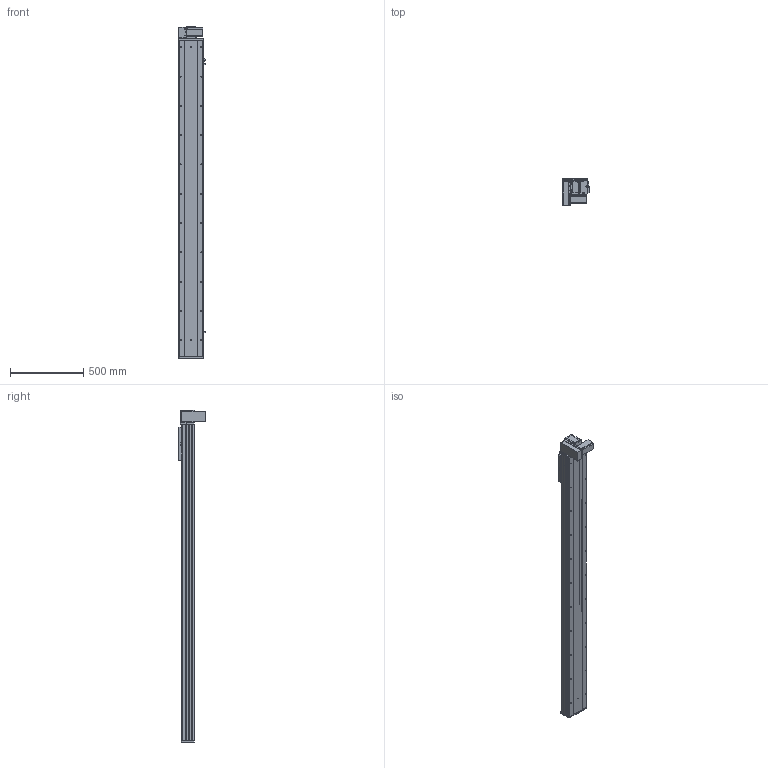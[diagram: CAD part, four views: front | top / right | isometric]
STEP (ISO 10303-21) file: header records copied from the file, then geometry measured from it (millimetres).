
FILE_DESCRIPTION (( 'STEP AP203' ), '1' );
FILE_NAME ('Y170CB-D105-S1850-BM-P400W.STEP', '2020-02-20T07:12:43', ( '微软用户' ), ( '微软中国' ), 'SwSTEP 2.0', 'SolidWorks 2017', '' );
FILE_SCHEMA (( 'CONFIG_CONTROL_DESIGN' ));
Length unit declared in the file: millimetre
Products named in the file (18): 17B-耜蚾蟀諉啣----; 70C--詩湍揤踡え-; 00B-俋欶BM--163; 70CB--耜裔; 70B喘謫眊----; 70C-雄赽釱-奻-; B-源倛裔啣; Y170CB-D105-S1850-BM-P400W; 0C--雄赽釱俋欶-170; 0B-萇儂楊擘啣; 70CB-詩湍--; san松下电机400不带刹车----; Y100-135俋离換覜ん--; 70CB-掛极-; Y170CB-陔俋离換覜結え---; --70CB --喘謫眊楊擘啣-; Y1埴倛裔; 70CB-耜裔啣-
Assembly tree (21 placements, depth 2):
  Y170CB-D105-S1850-BM-P400W
    B-源倛裔啣
    0B-萇儂楊擘啣
    san松下电机400不带刹车----
    70CB-掛极-
    --70CB --喘謫眊楊擘啣-
    70CB-耜裔啣-  x2
    70C--詩湍揤踡え-  x2
    70CB--耜裔
    70C-雄赽釱-奻-
    0C--雄赽釱俋欶-170
    70CB-詩湍--
    Y100-135俋离換覜ん--  x3
    Y170CB-陔俋离換覜結え---
    Y1埴倛裔
    17B-耜蚾蟀諉啣----
    00B-俋欶BM--163
    70B喘謫眊----
Bounding box: 183.5 x 184 x 2266 mm (x, y, z)
Volume: 9886703.3 mm3; surface area: 3562948 mm2
Topology: 21 solids, 21 shells, 1039 faces, 2789 edges, 1850 vertices
Faces by surface type: cylinder 553, plane 462, cone 24
Entity records: 33204 total; most frequent: CARTESIAN_POINT 6096, DIRECTION 5402, ORIENTED_EDGE 5060, EDGE_CURVE 2530, AXIS2_PLACEMENT_3D 1988, VERTEX_POINT 1680, VECTOR 1426, LINE 1426
